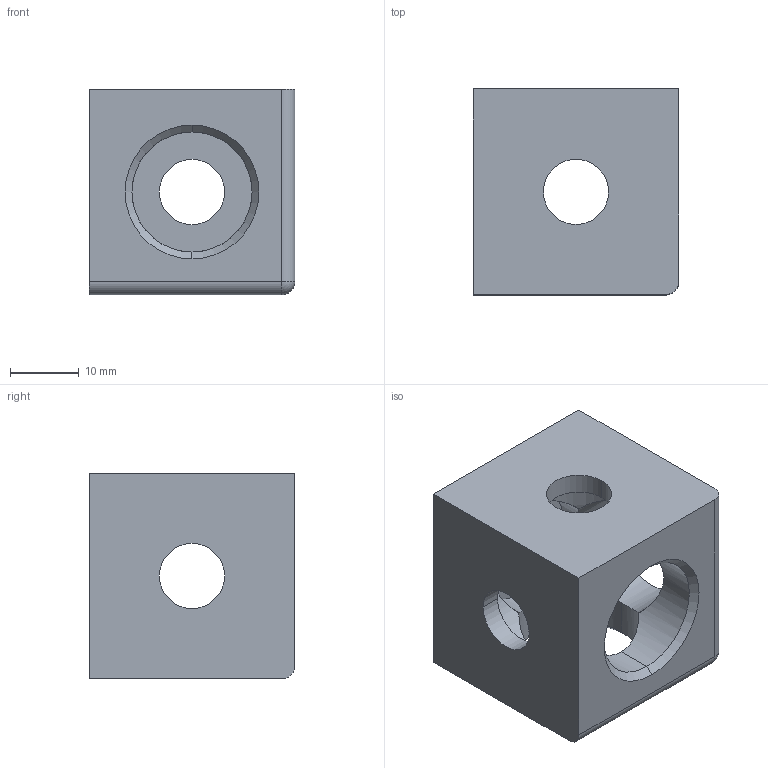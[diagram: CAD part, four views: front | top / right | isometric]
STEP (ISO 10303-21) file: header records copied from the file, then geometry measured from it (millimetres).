
FILE_DESCRIPTION (( 'STEP AP203' ), '1' );
FILE_NAME ('2069.STEP', '2016-09-15T19:08:35', ( '' ), ( '' ), 'SwSTEP 2.0', 'SolidWorks 2014', '' );
FILE_SCHEMA (( 'CONFIG_CONTROL_DESIGN' ));
Length unit declared in the file: millimetre
Products named in the file (1): 2069
Bounding box: 30 x 30 x 30 mm (x, y, z)
Volume: 14325.6 mm3; surface area: 6955.7 mm2
Topology: 1 solids, 1 shells, 35 faces, 96 edges, 61 vertices
Faces by surface type: cylinder 21, plane 9, cone 4, sphere 1
Entity records: 1204 total; most frequent: CARTESIAN_POINT 264, ORIENTED_EDGE 190, DIRECTION 177, EDGE_CURVE 95, AXIS2_PLACEMENT_3D 70, VERTEX_POINT 61, EDGE_LOOP 44, LINE 37
